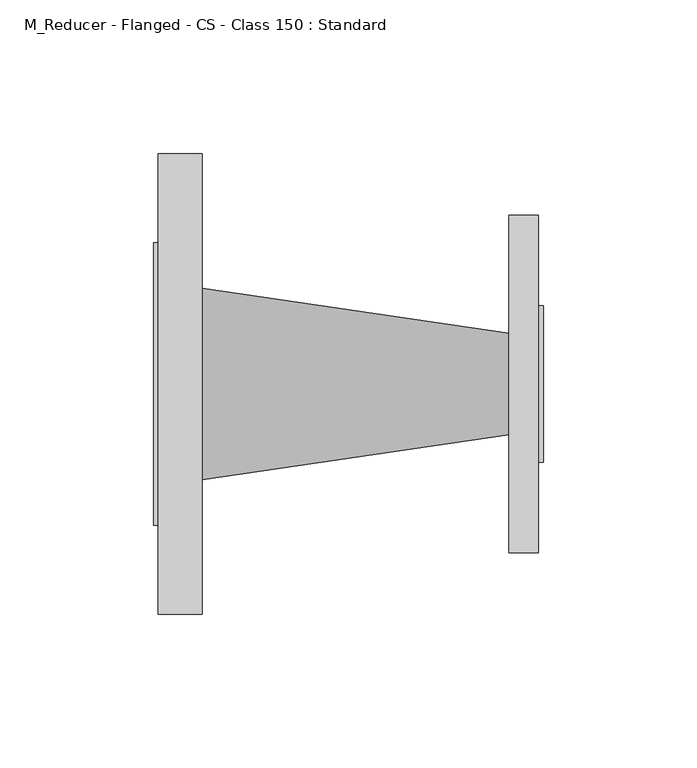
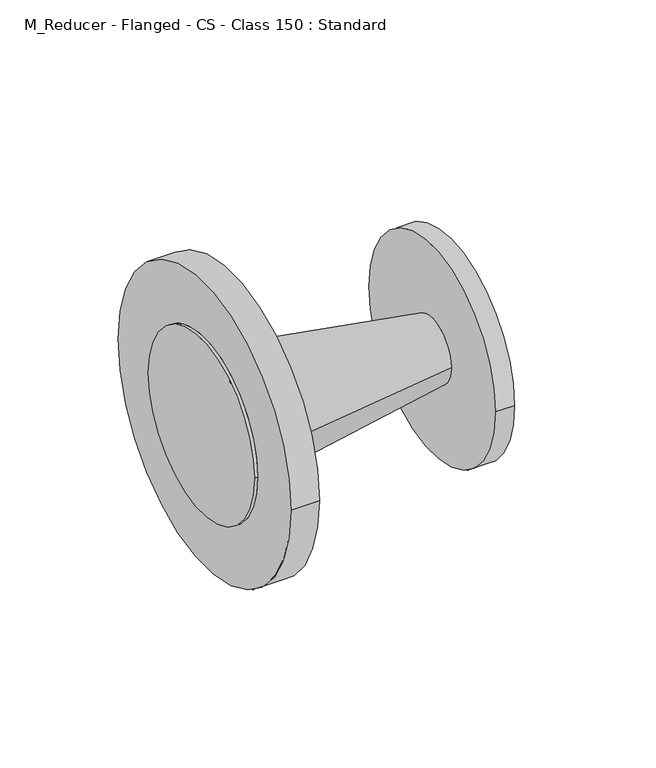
"""IFC4 building model written with IfcOpenShell, lengths in millimetres: pipe fitting geometry, M_Reducer - Flanged - CS - Class 150 : Standard."""

from ifc_helpers import new_model, si_unit, frame, origin, place, context, project, spatial, polyline, circle_curve, source, transform, mapped, element, save
from ifc_brep_helpers import plane_surface, cylinder_surface, revolved_surface, advanced_brep


def m_reducer_flanged_cs_class_150_standard_5e9b2cee(model_context):
    return source(origin(), model_context, "Body", "AdvancedBrep", [
        advanced_brep(
        [(15.8875, 75.0, 0.0), (15.8875, -75.0, 0.0), (15.8875, -31.1, 0.0), (15.8875, 31.1, 0.0), (1.5875, 75.0, 0.0), (1.5875, -75.0, 0.0), (1.5875, 46.05, 0.0), (1.5875, -46.05, 0.0), (115.8125, 16.5, 0.0), (115.8125, -16.5, 0.0), (125.4125, 55.0, 0.0), (125.4125, -55.0, 0.0), (125.4125, -25.4, 0.0), (125.4125, 25.4, 0.0), (115.8125, 55.0, 0.0), (115.8125, -55.0, 0.0), (0.0, 46.05, 0.0), (0.0, -46.05, 0.0), (127.0, 25.4, 0.0), (127.0, -25.4, 0.0)],
        [
            (0, 1, circle_curve(frame((15.8875, 0.0, 0.0), z_axis=(1.0, 0.0, 0.0), x_axis=(0.0, -1.0, 0.0)), 75.0)),
            (1, 0, circle_curve(frame((15.8875, 0.0, 0.0), z_axis=(1.0, 0.0, 0.0), x_axis=(0.0, -1.0, 0.0)), 75.0)),
            (2, 3, circle_curve(frame((15.8875, 0.0, 0.0), z_axis=(-1.0, 0.0, 0.0), x_axis=(0.0, -1.0, 0.0)), 31.1)),
            (3, 2, circle_curve(frame((15.8875, 0.0, 0.0), z_axis=(-1.0, 0.0, 0.0), x_axis=(0.0, 1.0, 0.0)), 31.1)),
            (4, 5, circle_curve(frame((1.5875, 0.0, 0.0), z_axis=(-1.0, 0.0, 0.0), x_axis=(0.0, -1.0, 0.0)), 75.0)),
            (5, 4, circle_curve(frame((1.5875, 0.0, 0.0), z_axis=(-1.0, 0.0, 0.0), x_axis=(0.0, -1.0, 0.0)), 75.0)),
            (6, 7, circle_curve(frame((1.5875, 0.0, 0.0), z_axis=(1.0, 0.0, 0.0), x_axis=(0.0, -1.0, 0.0)), 46.05)),
            (7, 6, circle_curve(frame((1.5875, 0.0, 0.0), z_axis=(1.0, 0.0, 0.0), x_axis=(0.0, -1.0, 0.0)), 46.05)),
            (1, 5),
            (4, 0),
            (3, 8),
            (8, 9, circle_curve(frame((115.8125, 0.0, 0.0), z_axis=(-1.0, 0.0, 0.0), x_axis=(0.0, 1.0, 0.0)), 16.5)),
            (9, 2),
            (9, 8, circle_curve(frame((115.8125, 0.0, 0.0), z_axis=(-1.0, 0.0, 0.0), x_axis=(0.0, -1.0, 0.0)), 16.5)),
            (10, 11, circle_curve(frame((125.4125, 0.0, 0.0), z_axis=(1.0, 0.0, 0.0), x_axis=(0.0, -1.0, 0.0)), 55.0)),
            (11, 10, circle_curve(frame((125.4125, 0.0, 0.0), z_axis=(1.0, 0.0, 0.0), x_axis=(0.0, -1.0, 0.0)), 55.0)),
            (12, 13, circle_curve(frame((125.4125, 0.0, 0.0), z_axis=(-1.0, 0.0, 0.0), x_axis=(0.0, -1.0, 0.0)), 25.4)),
            (13, 12, circle_curve(frame((125.4125, 0.0, 0.0), z_axis=(-1.0, 0.0, 0.0), x_axis=(0.0, -1.0, 0.0)), 25.4)),
            (14, 15, circle_curve(frame((115.8125, 0.0, 0.0), z_axis=(-1.0, 0.0, 0.0), x_axis=(0.0, -1.0, 0.0)), 55.0)),
            (15, 14, circle_curve(frame((115.8125, 0.0, 0.0), z_axis=(-1.0, 0.0, 0.0), x_axis=(0.0, -1.0, 0.0)), 55.0)),
            (11, 15),
            (14, 10),
            (16, 17, circle_curve(frame((0.0, 0.0, 0.0), z_axis=(-1.0, 0.0, 0.0), x_axis=(0.0, -1.0, 0.0)), 46.05)),
            (17, 16, circle_curve(frame((0.0, 0.0, 0.0), z_axis=(-1.0, 0.0, 0.0), x_axis=(0.0, -1.0, 0.0)), 46.05)),
            (16, 6),
            (7, 17),
            (18, 19, circle_curve(frame((127.0, 0.0, 0.0), z_axis=(1.0, 0.0, 0.0), x_axis=(0.0, -1.0, 0.0)), 25.4)),
            (19, 18, circle_curve(frame((127.0, 0.0, 0.0), z_axis=(1.0, 0.0, 0.0), x_axis=(0.0, -1.0, 0.0)), 25.4)),
            (19, 12),
            (13, 18),
        ],
        [
            plane_surface(frame((15.8875, -75.0, 0.0), z_axis=(1.0, 0.0, 0.0), x_axis=(0.0, 0.0, 1.0))),
            plane_surface(frame((1.5875, -75.0, 0.0), z_axis=(-1.0, 0.0, 0.0), x_axis=(0.0, 0.0, -1.0))),
            cylinder_surface(frame((1.5875, 0.0, 0.0), z_axis=(1.0, 0.0, 0.0), x_axis=(0.0, -1.0, 0.0)), 75.0),
            revolved_surface(polyline([(115.8125, -16.500000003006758, 0.0), (15.887499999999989, -31.1, 0.0)]), (228.7414384, 0.0, 0.0), (-1.0, 0.0, 0.0)),
            revolved_surface(polyline([(115.8125, 16.500000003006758, 0.0), (15.887499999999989, 31.1, 0.0)]), (228.7414384, 0.0, 0.0), (-1.0, 0.0, 0.0)),
            plane_surface(frame((125.4125, -55.0, 0.0), z_axis=(1.0, 0.0, 0.0), x_axis=(0.0, 0.0, 1.0))),
            plane_surface(frame((115.8125, -55.0, 0.0), z_axis=(-1.0, 0.0, 0.0), x_axis=(0.0, 0.0, -1.0))),
            cylinder_surface(frame((115.8125, 0.0, 0.0), z_axis=(1.0, 0.0, 0.0), x_axis=(0.0, -1.0, 0.0)), 55.0),
            plane_surface(frame((0.0, -46.05, 0.0), z_axis=(-1.0, 0.0, 0.0), x_axis=(0.0, 0.0, -1.0))),
            cylinder_surface(frame((0.0, 0.0, 0.0), z_axis=(1.0, 0.0, 0.0), x_axis=(0.0, -1.0, 0.0)), 46.05),
            plane_surface(frame((127.0, -25.4, 0.0), z_axis=(1.0, 0.0, 0.0), x_axis=(0.0, 0.0, 1.0))),
            cylinder_surface(frame((125.4125, 0.0, 0.0), z_axis=(1.0, 0.0, 0.0), x_axis=(0.0, -1.0, 0.0)), 25.4),
        ],
        [
            (0, [[1, 2], [3, 4]]),
            (1, [[5, 6], [7, 8]]),
            (2, [[9, -5, 10, -2]]),
            (2, [[-10, -6, -9, -1]]),
            (3, [[-4, 11, 12, 13]]),
            (4, [[14, -11, -3, -13]]),
            (5, [[15, 16], [17, 18]]),
            (6, [[19, 20], [-14, -12]]),
            (7, [[21, -19, 22, -16]]),
            (7, [[-22, -20, -21, -15]]),
            (8, [[23, 24]]),
            (9, [[25, -8, 26, -23]]),
            (9, [[-26, -7, -25, -24]]),
            (10, [[27, 28]]),
            (11, [[29, -18, 30, -28]]),
            (11, [[-30, -17, -29, -27]]),
        ],
    ),
    ])


if __name__ == "__main__":
    model = new_model("IFC4")
    model_context = context("Model", 3, world=origin())
    ifc_project = project(units=[si_unit("LENGTHUNIT", "METRE", prefix="MILLI")], contexts=[model_context])
    site = spatial("IfcSite", under=ifc_project)
    building = spatial("IfcBuilding", under=site)
    placement = place(None, origin())
    m_reducer_flanged_cs_class_150_standard_shape = m_reducer_flanged_cs_class_150_standard_5e9b2cee(model_context)
    element("IfcPipeFitting", 1, ObjectType="M_Reducer - Flanged - CS - Class 150 : Standard", at=placement, inside=building, context=model_context, shape_type="MappedRepresentation", body=[
        mapped(m_reducer_flanged_cs_class_150_standard_shape, transform((0.0, 0.0, 0.0), x_axis=(1.0, 0.0, 0.0), y_axis=(0.0, 1.0, 0.0), z_axis=(0.0, 0.0, 1.0))),
    ])
    save(model, "model.ifc")
